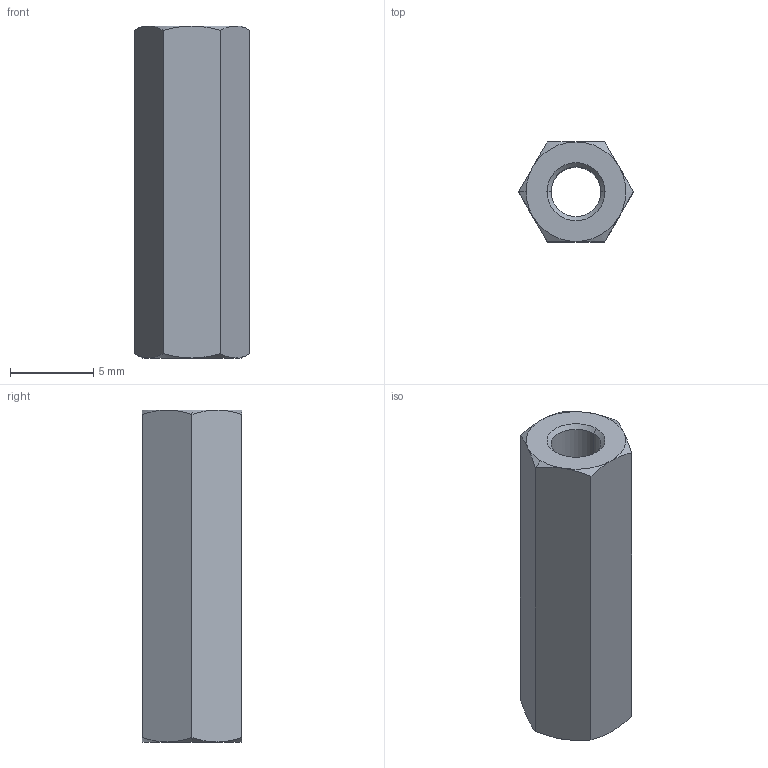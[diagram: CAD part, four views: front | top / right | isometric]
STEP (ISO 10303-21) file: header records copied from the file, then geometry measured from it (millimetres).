
FILE_DESCRIPTION (( 'STEP AP203' ), '1' );
FILE_NAME ('N0503.030-020-NP.step', '2025-02-27T14:41:24', ( '' ), ( '' ), 'SwSTEP 2.0', 'SolidWorks 2019', '' );
FILE_SCHEMA (( 'CONFIG_CONTROL_DESIGN' ));
Length unit declared in the file: millimetre
Products named in the file (1): N0503.030-020-NP
Bounding box: 6.93 x 6 x 20 mm (x, y, z)
Volume: 481.1 mm3; surface area: 646.9 mm2
Topology: 1 solids, 1 shells, 28 faces, 60 edges, 34 vertices
Faces by surface type: cone 18, plane 8, cylinder 2
Entity records: 875 total; most frequent: CARTESIAN_POINT 223, ORIENTED_EDGE 120, DIRECTION 116, EDGE_CURVE 60, AXIS2_PLACEMENT_3D 51, VERTEX_POINT 34, EDGE_LOOP 30, ADVANCED_FACE 28
